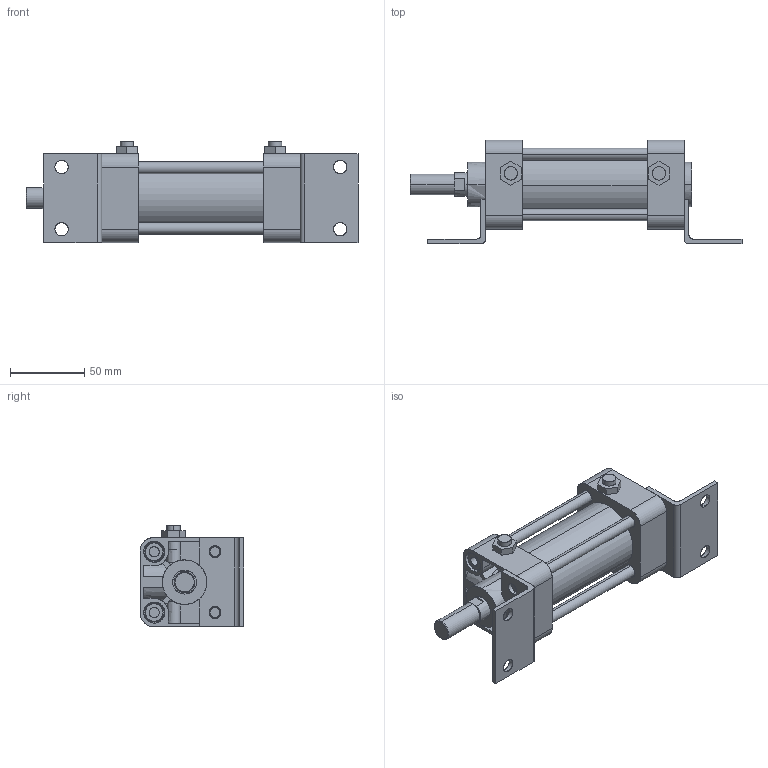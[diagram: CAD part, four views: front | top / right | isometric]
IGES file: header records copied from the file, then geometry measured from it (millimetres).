
Start section: SolidWorks IGES file using analytic representation for surfaces
Global section: file name: C:\Users\Toshiba\Desktop\KG2-40-50-L.IGS; native system: SolidWorks 2014; preprocessor: SolidWorks 2014; author: Toshiba; date: 160401.160919; units: millimetre
Bounding box: 224 x 70 x 68.3 mm (x, y, z)
Surface area: 100796.8 mm2 (no closed solid volume)
Topology: 0 solids, 0 shells, 399 faces, 5953 edges, 5919 vertices
Faces by surface type: revolution 208, bspline 191
